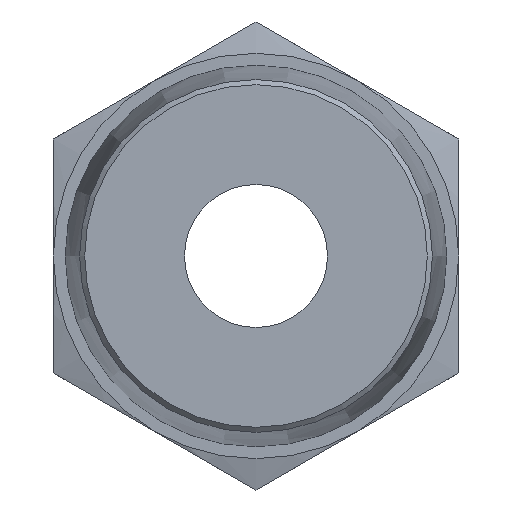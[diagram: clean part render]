
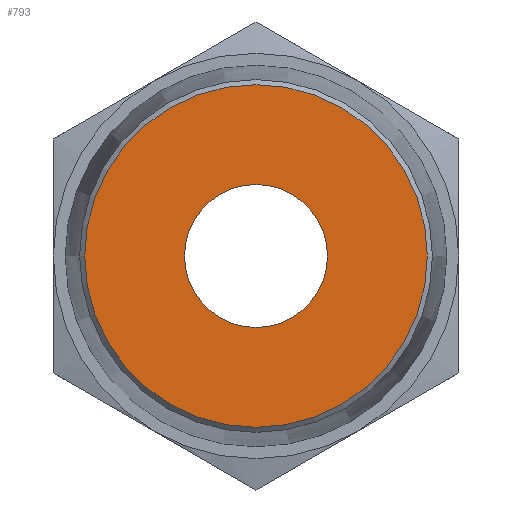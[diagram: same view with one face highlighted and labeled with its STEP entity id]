
A CAD part, front view. The second image highlights one B-rep face of the part: STEP entity #793.
In plain terms, the highlighted planar face has unit normal (0, -1, 0).
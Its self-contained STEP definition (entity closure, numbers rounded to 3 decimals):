
#15=FACE_BOUND('',#142,.T.);
#92=FACE_OUTER_BOUND('',#141,.T.);
#141=EDGE_LOOP('',(#611));
#142=EDGE_LOOP('',(#612));
#188=CIRCLE('',#878,7.187);
#190=CIRCLE('',#882,3.);
#370=VERTEX_POINT('',#1311);
#372=VERTEX_POINT('',#1319);
#461=EDGE_CURVE('',#370,#370,#188,.T.);
#464=EDGE_CURVE('',#372,#372,#190,.T.);
#611=ORIENTED_EDGE('',*,*,#461,.F.);
#612=ORIENTED_EDGE('',*,*,#464,.T.);
#761=PLANE('',#881);
#793=ADVANCED_FACE('',(#92,#15),#761,.T.);
#878=AXIS2_PLACEMENT_3D('',#1313,#1045,#1046);
#881=AXIS2_PLACEMENT_3D('',#1318,#1052,#1053);
#882=AXIS2_PLACEMENT_3D('',#1320,#1054,#1055);
#1045=DIRECTION('center_axis',(0.,1.,0.));
#1046=DIRECTION('ref_axis',(-1.,0.,0.));
#1052=DIRECTION('center_axis',(0.,-1.,0.));
#1053=DIRECTION('ref_axis',(0.,0.,-1.));
#1054=DIRECTION('center_axis',(0.,1.,0.));
#1055=DIRECTION('ref_axis',(1.,0.,0.));
#1311=CARTESIAN_POINT('',(7.187,-9.8,0.));
#1313=CARTESIAN_POINT('Origin',(0.,-9.8,0.));
#1318=CARTESIAN_POINT('Origin',(7.387,-9.8,0.));
#1319=CARTESIAN_POINT('',(-3.,-9.8,0.));
#1320=CARTESIAN_POINT('Origin',(0.,-9.8,0.));
